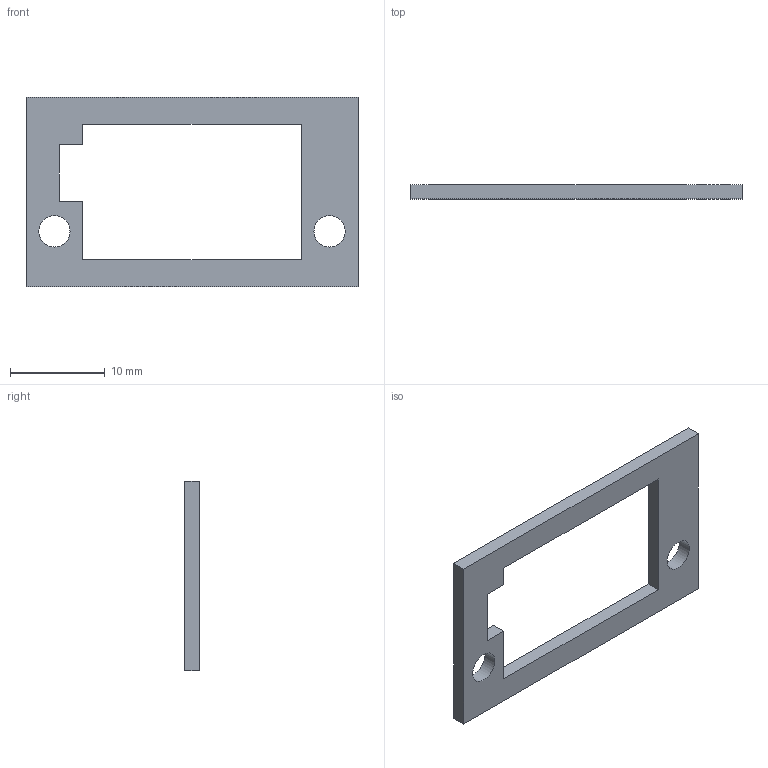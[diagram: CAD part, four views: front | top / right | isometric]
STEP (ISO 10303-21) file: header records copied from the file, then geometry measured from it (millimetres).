
FILE_DESCRIPTION(/* description */ (''),/* implementation_level */ '2;1');
FILE_NAME(/* name */ 'C:/Users/priba/Documents/Temp/mrm-voltHolderA.step',/* time_stamp */ '2019-11-02T00:04:52+01:00',/* author */ (''),/* organization */ (''),/* preprocessor_version */ 'ST-DEVELOPER v18',/* originating_system */ 'Autodesk Translation Framework v8.9.1.1155',/* authorisation */ '');
FILE_SCHEMA (('AUTOMOTIVE_DESIGN { 1 0 10303 214 3 1 1 }'));
Length unit declared in the file: millimetre
Products named in the file (1): mrm-voltHolderA
Bounding box: 35 x 1.5 x 20 mm (x, y, z)
Volume: 508.5 mm3; surface area: 993.5 mm2
Topology: 1 solids, 1 shells, 16 faces, 42 edges, 28 vertices
Faces by surface type: plane 14, cylinder 2
Full cylindrical faces by diameter (mm): 3.3 x2
Entity records: 535 total; most frequent: CARTESIAN_POINT 87, ORIENTED_EDGE 84, DIRECTION 80, EDGE_CURVE 42, LINE 38, VECTOR 38, VERTEX_POINT 28, EDGE_LOOP 22
